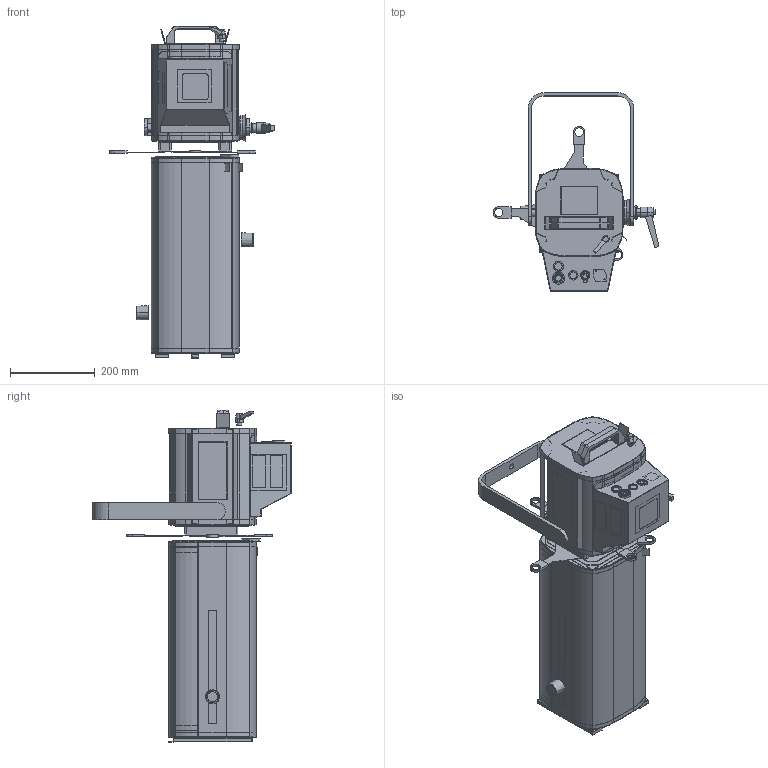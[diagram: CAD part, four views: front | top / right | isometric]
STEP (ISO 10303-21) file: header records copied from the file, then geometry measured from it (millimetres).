
FILE_DESCRIPTION (( 'STEP AP203' ), '1' );
FILE_NAME ('651 4C.STEP', '2023-05-04T13:40:53', ( '' ), ( '' ), 'SwSTEP 2.0', 'SolidWorks 2019', '' );
FILE_SCHEMA (( 'CONFIG_CONTROL_DESIGN' ));
Length unit declared in the file: millimetre
Products named in the file (1): 651 4C
Bounding box: 391.34 x 468.85 x 782.81 mm (x, y, z)
Volume: 1531806.5 mm3; surface area: 2109592.3 mm2
Topology: 60 solids, 60 shells, 1123 faces, 2614 edges, 1640 vertices
Faces by surface type: plane 694, cylinder 358, torus 38, cone 29, bspline 4
Entity records: 31895 total; most frequent: CARTESIAN_POINT 5700, DIRECTION 5600, ORIENTED_EDGE 5228, EDGE_CURVE 2614, AXIS2_PLACEMENT_3D 1920, VECTOR 1760, LINE 1760, VERTEX_POINT 1640
